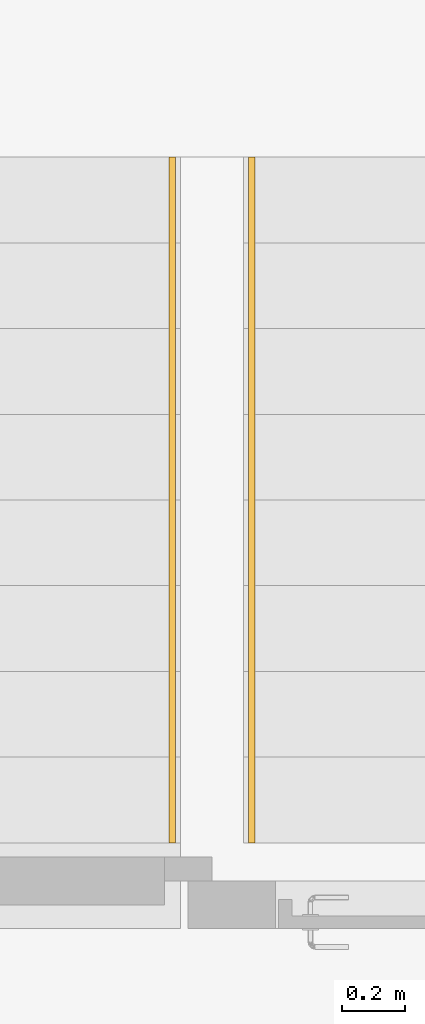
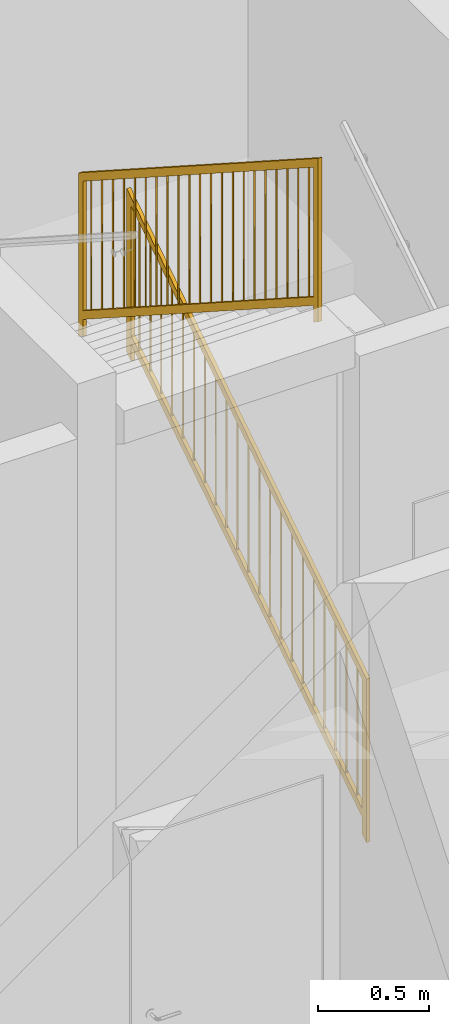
# One storey, part 40 of 58: 2 railings, 1 element without a shape of its own.
"""IFC2X3 building model written with IfcOpenShell, lengths in millimetres."""

from ifc_helpers import new_model, entity, si_unit, converted_unit, derived_unit, direction, frame, origin, place, context, subcontext, project, spatial, faceted_brep, material, type_object, element, aggregate, save


model = new_model("IFC2X3")

# Units and contexts
model_context = context("Model", 3, precision=0.01, world=origin(), true_north=direction((0.7716245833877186, 0.6360782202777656)))
body_context = subcontext(model_context, "Body", "Model", "MODEL_VIEW")
ifc_project = project(units=[si_unit("LENGTHUNIT", "METRE", prefix="MILLI"), si_unit("AREAUNIT", "SQUARE_METRE"), converted_unit("PLANEANGLEUNIT", "DEGREE", entity("IfcPlaneAngleMeasure", 0.017453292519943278), si_unit("PLANEANGLEUNIT", "RADIAN"), dimensions=[0, 0, 0, 0, 0, 0, 0]), derived_unit("THERMALTRANSMITTANCEUNIT", [(si_unit("MASSUNIT", "GRAM", prefix="KILO"), 1), (si_unit("THERMODYNAMICTEMPERATUREUNIT", "KELVIN"), -1), (si_unit("TIMEUNIT", "SECOND"), -3)])], contexts=[model_context])

# Site, building, storey
site_placement = place(None, origin())
site = spatial("IfcSite", under=ifc_project, at=site_placement, Name="Default", CompositionType="ELEMENT")
building_placement = place(site_placement, origin())
building = spatial("IfcBuilding", under=site, at=building_placement, CompositionType="ELEMENT")
storey_placement = place(building_placement, frame((0.0, 0.0, 31140.0)))
storey = spatial("IfcBuildingStorey", under=building, at=storey_placement, Name="PLAN U1", CompositionType="ELEMENT", Elevation=31140.000000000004)

# Stair, railings
type_product = type_object("IfcTypeProduct", Name="Cast-In-Place Stair:Cast-In-Place Stair")
stair_placement = place(storey_placement, origin())
stair = element("IfcStair", 1, at=stair_placement, inside=storey, type_object=type_product, Name="Cast-In-Place Stair:Stair", ObjectType="Cast-In-Place Stair:Cast-In-Place Stair", ShapeType="HALF_TURN_STAIR")
ifc_material = material(Name="<Unnamed>")
railing_type = type_object("IfcRailingType", Name="Railing:280 Rekkverk - Loddrett - Runde profiler - H=900mm", PredefinedType="NOTDEFINED")
railing_1_placement = place(stair_placement, frame((269182.224446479, 59435.25555007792, 1656.8421052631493)))
railing_1 = element("IfcRailing", 2, at=railing_1_placement, type_object=railing_type, material=ifc_material, Name="Railing:280 Rekkverk - Loddrett - Runde profiler - H=900mm", ObjectType="Railing:280 Rekkverk - Loddrett - Runde profiler - H=900mm", PredefinedType="NOTDEFINED", context=body_context, shape_type="Brep", body=[
    faceted_brep([(15.300000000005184, 98.18181818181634, 2186.31578947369), (11.41260466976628, 93.30717862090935, 2189.451522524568), (15.300000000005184, 98.18181818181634, 1466.3157894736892), (9.187395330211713, 93.30717862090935, 1469.4515225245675), (5.2999999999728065, 98.18181818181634, 2186.31578947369), (5.2999999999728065, 98.18181818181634, 1466.3157894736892), (9.187395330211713, 103.05645774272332, 2183.180056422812), (11.41260466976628, 103.05645774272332, 1463.1800564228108)], [[[0, 1, 2]], [[3, 2, 1]], [[4, 5, 3]], [[1, 4, 3]], [[6, 5, 4]], [[7, 5, 6]], [[0, 2, 7]], [[6, 0, 7]], [[6, 4, 1, 0]], [[3, 5, 7, 2]]]),
    faceted_brep([(15.300000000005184, 196.36363636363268, 2123.157894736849), (11.41260466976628, 191.4889968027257, 2126.2936277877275), (15.300000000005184, 196.36363636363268, 1403.1578947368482), (9.187395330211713, 191.4889968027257, 1406.2936277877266), (5.2999999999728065, 196.36363636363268, 2123.157894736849), (5.2999999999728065, 196.36363636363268, 1403.1578947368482), (9.187395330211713, 201.23827592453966, 2120.022161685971), (11.41260466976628, 201.23827592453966, 1400.0221616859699)], [[[0, 1, 2]], [[3, 2, 1]], [[4, 5, 3]], [[1, 4, 3]], [[6, 5, 4]], [[7, 5, 6]], [[0, 2, 7]], [[6, 0, 7]], [[6, 4, 1, 0]], [[3, 5, 7, 2]]]),
    faceted_brep([(15.300000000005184, 294.5454545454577, 2060.0), (11.41260466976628, 289.6708149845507, 2063.135733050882), (15.300000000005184, 294.5454545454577, 1340.0), (9.187395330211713, 289.6708149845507, 1343.1357330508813), (5.2999999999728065, 294.5454545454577, 2060.0), (5.2999999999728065, 294.5454545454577, 1340.0), (9.187395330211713, 299.4200941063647, 2056.8642669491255), (11.41260466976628, 299.4200941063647, 1336.8642669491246)], [[[0, 1, 2]], [[3, 2, 1]], [[4, 5, 3]], [[1, 4, 3]], [[6, 5, 4]], [[7, 5, 6]], [[0, 2, 7]], [[6, 0, 7]], [[6, 4, 1, 0]], [[3, 5, 7, 2]]]),
    faceted_brep([(15.300000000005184, 392.727272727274, 1996.842105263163), (11.41260466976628, 387.852633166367, 1999.9778383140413), (15.300000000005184, 392.727272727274, 1276.842105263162), (9.187395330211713, 387.852633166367, 1279.9778383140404), (5.2999999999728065, 392.727272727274, 1996.842105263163), (5.2999999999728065, 392.727272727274, 1276.842105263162), (9.187395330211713, 397.601912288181, 1993.7063722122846), (11.41260466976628, 397.601912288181, 1273.7063722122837)], [[[0, 1, 2]], [[3, 2, 1]], [[4, 5, 3]], [[1, 4, 3]], [[6, 5, 4]], [[7, 5, 6]], [[0, 2, 7]], [[6, 0, 7]], [[6, 4, 1, 0]], [[3, 5, 7, 2]]]),
    faceted_brep([(15.300000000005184, 490.90909090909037, 1933.684210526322), (11.41260466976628, 486.0344513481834, 1936.8199435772), (15.300000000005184, 490.90909090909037, 1213.684210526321), (9.187395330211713, 486.0344513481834, 1216.8199435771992), (5.2999999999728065, 490.90909090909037, 1933.684210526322), (5.2999999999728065, 490.90909090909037, 1213.684210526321), (9.187395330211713, 495.78373046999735, 1930.5484774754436), (11.41260466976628, 495.78373046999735, 1210.5484774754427)], [[[0, 1, 2]], [[3, 2, 1]], [[4, 5, 3]], [[1, 4, 3]], [[6, 5, 4]], [[7, 5, 6]], [[0, 2, 7]], [[6, 0, 7]], [[6, 4, 1, 0]], [[3, 5, 7, 2]]]),
    faceted_brep([(15.300000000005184, 589.0909090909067, 1870.5263157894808), (11.41260466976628, 584.2162695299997, 1873.6620488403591), (15.300000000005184, 589.0909090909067, 1150.52631578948), (9.187395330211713, 584.2162695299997, 1153.6620488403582), (5.2999999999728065, 589.0909090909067, 1870.5263157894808), (5.2999999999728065, 589.0909090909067, 1150.52631578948), (9.187395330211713, 593.9655486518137, 1867.3905827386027), (11.41260466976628, 593.9655486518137, 1147.3905827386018)], [[[0, 1, 2]], [[3, 2, 1]], [[4, 5, 3]], [[1, 4, 3]], [[6, 5, 4]], [[7, 5, 6]], [[0, 2, 7]], [[6, 0, 7]], [[6, 4, 1, 0]], [[3, 5, 7, 2]]]),
    faceted_brep([(15.300000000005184, 687.2727272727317, 1807.3684210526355), (11.41260466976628, 682.3980877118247, 1810.5041541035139), (15.300000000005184, 687.2727272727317, 1087.3684210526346), (9.187395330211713, 682.3980877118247, 1090.504154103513), (5.2999999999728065, 687.2727272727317, 1807.3684210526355), (5.2999999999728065, 687.2727272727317, 1087.3684210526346), (9.187395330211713, 692.1473668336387, 1804.2326880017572), (11.41260466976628, 692.1473668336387, 1084.2326880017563)], [[[0, 1, 2]], [[3, 2, 1]], [[4, 5, 3]], [[1, 4, 3]], [[6, 5, 4]], [[7, 5, 6]], [[0, 2, 7]], [[6, 0, 7]], [[6, 4, 1, 0]], [[3, 5, 7, 2]]]),
    faceted_brep([(15.300000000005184, 785.454545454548, 1744.2105263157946), (11.41260466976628, 780.579905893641, 1747.346259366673), (15.300000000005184, 785.454545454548, 1024.2105263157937), (9.187395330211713, 780.579905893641, 1027.346259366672), (5.2999999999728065, 785.454545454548, 1744.2105263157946), (5.2999999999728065, 785.454545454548, 1024.2105263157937), (9.187395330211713, 790.329185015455, 1741.0747932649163), (11.41260466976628, 790.329185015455, 1021.0747932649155)], [[[0, 1, 2]], [[3, 2, 1]], [[4, 5, 3]], [[1, 4, 3]], [[6, 5, 4]], [[7, 5, 6]], [[0, 2, 7]], [[6, 0, 7]], [[6, 4, 1, 0]], [[3, 5, 7, 2]]]),
    faceted_brep([(15.300000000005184, 883.6363636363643, 1681.0526315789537), (11.41260466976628, 878.7617240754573, 1684.188364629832), (15.300000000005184, 883.6363636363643, 961.0526315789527), (9.187395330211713, 878.7617240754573, 964.1883646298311), (5.2999999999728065, 883.6363636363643, 1681.0526315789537), (5.2999999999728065, 883.6363636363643, 961.0526315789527), (9.187395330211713, 888.5110031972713, 1677.9168985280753), (11.41260466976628, 888.5110031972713, 957.9168985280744)], [[[0, 1, 2]], [[3, 2, 1]], [[4, 5, 3]], [[1, 4, 3]], [[6, 5, 4]], [[7, 5, 6]], [[0, 2, 7]], [[6, 0, 7]], [[6, 4, 1, 0]], [[3, 5, 7, 2]]]),
    faceted_brep([(15.300000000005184, 981.8181818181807, 1617.8947368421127), (11.41260466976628, 976.9435422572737, 1621.030469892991), (15.300000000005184, 981.8181818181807, 897.8947368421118), (9.187395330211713, 976.9435422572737, 901.0304698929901), (5.2999999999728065, 981.8181818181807, 1617.8947368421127), (5.2999999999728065, 981.8181818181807, 897.8947368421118), (9.187395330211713, 986.6928213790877, 1614.7590037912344), (11.41260466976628, 986.6928213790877, 894.7590037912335)], [[[0, 1, 2]], [[3, 2, 1]], [[4, 5, 3]], [[1, 4, 3]], [[6, 5, 4]], [[7, 5, 6]], [[0, 2, 7]], [[6, 0, 7]], [[6, 4, 1, 0]], [[3, 5, 7, 2]]]),
    faceted_brep([(15.300000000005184, 1080.0, 1554.7368421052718), (11.41260466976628, 1075.12536043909, 1557.87257515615), (15.300000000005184, 1080.0, 834.7368421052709), (9.187395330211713, 1075.12536043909, 837.8725751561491), (5.2999999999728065, 1080.0, 1554.7368421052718), (5.2999999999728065, 1080.0, 834.7368421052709), (9.187395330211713, 1084.874639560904, 1551.6011090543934), (11.41260466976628, 1084.874639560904, 831.6011090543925)], [[[0, 1, 2]], [[3, 2, 1]], [[4, 5, 3]], [[1, 4, 3]], [[6, 5, 4]], [[7, 5, 6]], [[0, 2, 7]], [[6, 0, 7]], [[6, 4, 1, 0]], [[3, 5, 7, 2]]]),
    faceted_brep([(15.300000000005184, 1178.181818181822, 1491.5789473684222), (11.41260466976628, 1173.307178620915, 1494.7146804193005), (15.300000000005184, 1178.181818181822, 771.5789473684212), (9.187395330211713, 1173.307178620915, 774.7146804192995), (5.2999999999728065, 1178.181818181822, 1491.5789473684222), (5.2999999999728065, 1178.181818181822, 771.5789473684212), (9.187395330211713, 1183.056457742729, 1488.4432143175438), (11.41260466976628, 1183.056457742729, 768.4432143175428)], [[[0, 1, 2]], [[3, 2, 1]], [[4, 5, 3]], [[1, 4, 3]], [[6, 5, 4]], [[7, 5, 6]], [[0, 2, 7]], [[6, 0, 7]], [[6, 4, 1, 0]], [[3, 5, 7, 2]]]),
    faceted_brep([(15.300000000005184, 1276.3636363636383, 1428.4210526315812), (11.41260466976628, 1271.4889968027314, 1431.5567856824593), (15.300000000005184, 1276.3636363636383, 708.4210526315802), (9.187395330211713, 1271.4889968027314, 711.5567856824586), (5.2999999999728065, 1276.3636363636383, 1428.4210526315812), (5.2999999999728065, 1276.3636363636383, 708.4210526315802), (9.187395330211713, 1281.2382759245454, 1425.285319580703), (11.41260466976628, 1281.2382759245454, 705.2853195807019)], [[[0, 1, 2]], [[3, 2, 1]], [[4, 5, 3]], [[1, 4, 3]], [[6, 5, 4]], [[7, 5, 6]], [[0, 2, 7]], [[6, 0, 7]], [[6, 4, 1, 0]], [[3, 5, 7, 2]]]),
    faceted_brep([(15.300000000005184, 1374.5454545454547, 1365.26315789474), (11.41260466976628, 1369.6708149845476, 1368.3988909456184), (15.300000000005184, 1374.5454545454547, 645.2631578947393), (9.187395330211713, 1369.6708149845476, 648.3988909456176), (5.2999999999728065, 1374.5454545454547, 1365.26315789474), (5.2999999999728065, 1374.5454545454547, 645.2631578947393), (9.187395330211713, 1379.4200941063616, 1362.127424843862), (11.41260466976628, 1379.4200941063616, 642.1274248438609)], [[[0, 1, 2]], [[3, 2, 1]], [[4, 5, 3]], [[1, 4, 3]], [[6, 5, 4]], [[7, 5, 6]], [[0, 2, 7]], [[6, 0, 7]], [[6, 4, 1, 0]], [[3, 5, 7, 2]]]),
    faceted_brep([(15.300000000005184, 1472.7272727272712, 1302.1052631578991), (11.41260466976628, 1467.852633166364, 1305.2409962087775), (15.300000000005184, 1472.7272727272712, 582.1052631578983), (9.187395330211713, 1467.852633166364, 585.2409962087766), (5.2999999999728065, 1472.7272727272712, 1302.1052631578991), (5.2999999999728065, 1472.7272727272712, 582.1052631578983), (9.187395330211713, 1477.601912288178, 1298.9695301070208), (11.41260466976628, 1477.601912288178, 578.96953010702)], [[[0, 1, 2]], [[3, 2, 1]], [[4, 5, 3]], [[1, 4, 3]], [[6, 5, 4]], [[7, 5, 6]], [[0, 2, 7]], [[6, 0, 7]], [[6, 4, 1, 0]], [[3, 5, 7, 2]]]),
    faceted_brep([(15.300000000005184, 1570.909090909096, 1238.9473684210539), (11.41260466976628, 1566.0344513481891, 1242.0831014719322), (15.300000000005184, 1570.909090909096, 518.9473684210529), (9.187395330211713, 1566.0344513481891, 522.0831014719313), (5.2999999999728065, 1570.909090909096, 1238.9473684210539), (5.2999999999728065, 1570.909090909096, 518.9473684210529), (9.187395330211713, 1575.783730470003, 1235.8116353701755), (11.41260466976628, 1575.783730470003, 515.8116353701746)], [[[0, 1, 2]], [[3, 2, 1]], [[4, 5, 3]], [[1, 4, 3]], [[6, 5, 4]], [[7, 5, 6]], [[0, 2, 7]], [[6, 0, 7]], [[6, 4, 1, 0]], [[3, 5, 7, 2]]]),
    faceted_brep([(15.300000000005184, 1669.0909090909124, 1175.789473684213), (11.41260466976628, 1664.2162695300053, 1178.9252067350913), (15.300000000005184, 1669.0909090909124, 455.789473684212), (9.187395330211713, 1664.2162695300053, 458.92520673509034), (5.2999999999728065, 1669.0909090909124, 1175.789473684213), (5.2999999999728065, 1669.0909090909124, 455.789473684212), (9.187395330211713, 1673.9655486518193, 1172.6537406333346), (11.41260466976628, 1673.9655486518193, 452.65374063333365)], [[[0, 1, 2]], [[3, 2, 1]], [[4, 5, 3]], [[1, 4, 3]], [[6, 5, 4]], [[7, 5, 6]], [[0, 2, 7]], [[6, 0, 7]], [[6, 4, 1, 0]], [[3, 5, 7, 2]]]),
    faceted_brep([(15.300000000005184, 1767.2727272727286, 1112.631578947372), (11.41260466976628, 1762.3980877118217, 1115.7673119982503), (15.300000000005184, 1767.2727272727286, 392.63157894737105), (9.187395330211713, 1762.3980877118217, 395.76731199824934), (5.2999999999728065, 1767.2727272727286, 1112.631578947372), (5.2999999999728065, 1767.2727272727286, 392.63157894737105), (9.187395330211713, 1772.1473668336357, 1109.4958458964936), (11.41260466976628, 1772.1473668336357, 389.4958458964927)], [[[0, 1, 2]], [[3, 2, 1]], [[4, 5, 3]], [[1, 4, 3]], [[6, 5, 4]], [[7, 5, 6]], [[0, 2, 7]], [[6, 0, 7]], [[6, 4, 1, 0]], [[3, 5, 7, 2]]]),
    faceted_brep([(15.300000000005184, 1865.454545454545, 1049.473684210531), (11.41260466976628, 1860.5799058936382, 1052.6094172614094), (15.300000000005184, 1865.454545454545, 329.47368421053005), (9.187395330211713, 1860.5799058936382, 332.6094172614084), (5.2999999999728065, 1865.454545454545, 1049.473684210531), (5.2999999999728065, 1865.454545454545, 329.47368421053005), (9.187395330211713, 1870.3291850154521, 1046.3379511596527), (11.41260466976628, 1870.3291850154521, 326.33795115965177)], [[[0, 1, 2]], [[3, 2, 1]], [[4, 5, 3]], [[1, 4, 3]], [[6, 5, 4]], [[7, 5, 6]], [[0, 2, 7]], [[6, 0, 7]], [[6, 4, 1, 0]], [[3, 5, 7, 2]]]),
    faceted_brep([(15.300000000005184, 1963.63636363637, 986.3157894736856), (11.41260466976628, 1958.761724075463, 989.451522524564), (15.300000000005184, 1963.63636363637, 266.3157894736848), (9.187395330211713, 1958.761724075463, 269.4515225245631), (5.2999999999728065, 1963.63636363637, 986.3157894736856), (5.2999999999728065, 1963.63636363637, 266.3157894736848), (9.187395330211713, 1968.511003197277, 983.1800564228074), (11.41260466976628, 1968.511003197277, 263.18005642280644)], [[[0, 1, 2]], [[3, 2, 1]], [[4, 5, 3]], [[1, 4, 3]], [[6, 5, 4]], [[7, 5, 6]], [[0, 2, 7]], [[6, 0, 7]], [[6, 4, 1, 0]], [[3, 5, 7, 2]]]),
    faceted_brep([(15.300000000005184, 2061.8181818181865, 923.1578947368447), (11.41260466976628, 2056.943542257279, 926.293627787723), (15.300000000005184, 2061.8181818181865, 203.1578947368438), (9.187395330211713, 2056.943542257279, 206.2936277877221), (5.2999999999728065, 2061.8181818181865, 923.1578947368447), (5.2999999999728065, 2061.8181818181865, 203.1578947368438), (9.187395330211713, 2066.6928213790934, 920.0221616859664), (11.41260466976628, 2066.6928213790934, 200.02216168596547)], [[[0, 1, 2]], [[3, 2, 1]], [[4, 5, 3]], [[1, 4, 3]], [[6, 5, 4]], [[7, 5, 6]], [[0, 2, 7]], [[6, 0, 7]], [[6, 4, 1, 0]], [[3, 5, 7, 2]]]),
    faceted_brep([(0.0, 0.0, 1389.4736842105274), (0.0, 0.0, 2249.4736842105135), (0.0, 40.0, 2223.74269005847), (0.0, 40.0, 1363.7426900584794), (20.0, 0.0, 1389.4736842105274), (20.0, 40.0, 1363.7426900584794), (20.0, 40.0, 2223.74269005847), (20.0, 0.0, 2249.4736842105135)], [[[0, 1, 2, 3]], [[4, 5, 6, 7]], [[3, 5, 4, 0]], [[2, 6, 5, 3]], [[1, 7, 6, 2]], [[0, 4, 7, 1]]]),
    faceted_brep([(0.0, 2120.0, 25.730994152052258), (0.0, 2120.0, 885.7309941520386), (0.0, 2160.0, 860.0), (0.0, 2160.0, 0.0), (20.0, 2120.0, 25.730994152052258), (20.0, 2160.0, 0.0), (20.0, 2160.0, 860.0), (20.0, 2120.0, 885.7309941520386)], [[[0, 1, 2, 3]], [[4, 5, 6, 7]], [[3, 5, 4, 0]], [[2, 6, 5, 3]], [[1, 7, 6, 2]], [[0, 4, 7, 1]]]),
    faceted_brep([(20.014143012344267, 2160.0, 852.4386284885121), (0.0141430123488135, 2160.0, 852.4386284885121), (0.0141430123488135, 2160.0, 900.0), (20.014143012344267, 2160.0, 900.0), (20.014143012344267, 0.0, 2241.9123126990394), (20.014143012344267, 0.0, 2289.4736842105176), (0.0141430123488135, 0.0, 2289.4736842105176), (0.0141430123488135, 0.0, 2241.9123126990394)], [[[0, 1, 2, 3]], [[4, 5, 6, 7]], [[1, 0, 4, 7]], [[2, 1, 7, 6]], [[3, 2, 6, 5]], [[0, 3, 5, 4]]]),
    faceted_brep([(20.014143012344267, 2160.0, 92.4386284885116), (0.0141430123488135, 2160.0, 92.4386284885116), (0.0141430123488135, 2160.0, 140.0), (20.014143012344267, 2160.0, 140.0), (20.014143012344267, 0.0, 1481.912312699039), (20.014143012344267, 0.0, 1529.4736842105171), (0.0141430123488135, 0.0, 1529.4736842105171), (0.0141430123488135, 0.0, 1481.912312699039)], [[[0, 1, 2, 3]], [[4, 5, 6, 7]], [[1, 0, 4, 7]], [[2, 1, 7, 6]], [[3, 2, 6, 5]], [[0, 3, 5, 4]]]),
])
railing_2_placement = place(stair_placement, frame((269433.6103034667, 59435.25555007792, 93.68421052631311)))
railing_2 = element("IfcRailing", 3, at=railing_2_placement, type_object=railing_type, material=ifc_material, Name="Railing:280 Rekkverk - Loddrett - Runde profiler - H=900mm", ObjectType="Railing:280 Rekkverk - Loddrett - Runde profiler - H=900mm", PredefinedType="NOTDEFINED", context=body_context, shape_type="Brep", body=[
    faceted_brep([(4.714143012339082, 98.18181818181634, 203.15789473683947), (8.601538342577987, 93.30717862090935, 920.022161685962), (4.714143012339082, 98.18181818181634, 923.1578947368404), (10.826747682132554, 93.30717862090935, 200.02216168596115), (14.71414301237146, 98.18181818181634, 203.15789473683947), (14.71414301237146, 98.18181818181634, 923.1578947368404), (10.826747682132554, 103.05645774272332, 926.2936277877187), (8.601538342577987, 103.05645774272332, 206.29362778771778)], [[[0, 1, 2]], [[1, 0, 3]], [[3, 4, 5]], [[3, 5, 1]], [[5, 4, 6]], [[6, 4, 7]], [[7, 0, 2]], [[7, 2, 6]], [[2, 1, 5, 6]], [[0, 7, 4, 3]]]),
    faceted_brep([(4.714143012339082, 196.36363636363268, 266.3157894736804), (8.601538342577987, 191.4889968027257, 983.180056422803), (4.714143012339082, 196.36363636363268, 986.3157894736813), (10.826747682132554, 191.4889968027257, 263.1800564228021), (14.71414301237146, 196.36363636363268, 266.3157894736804), (14.71414301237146, 196.36363636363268, 986.3157894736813), (10.826747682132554, 201.23827592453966, 989.4515225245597), (8.601538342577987, 201.23827592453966, 269.45152252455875)], [[[0, 1, 2]], [[1, 0, 3]], [[3, 4, 5]], [[3, 5, 1]], [[5, 4, 6]], [[6, 4, 7]], [[7, 0, 2]], [[7, 2, 6]], [[2, 1, 5, 6]], [[0, 7, 4, 3]]]),
    faceted_brep([(4.714143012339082, 294.5454545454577, 329.47368421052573), (8.601538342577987, 289.6708149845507, 1046.3379511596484), (4.714143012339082, 294.5454545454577, 1049.4736842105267), (10.826747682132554, 289.6708149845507, 326.3379511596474), (14.71414301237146, 294.5454545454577, 329.47368421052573), (14.71414301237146, 294.5454545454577, 1049.4736842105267), (10.826747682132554, 299.4200941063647, 1052.609417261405), (8.601538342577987, 299.4200941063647, 332.6094172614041)], [[[0, 1, 2]], [[1, 0, 3]], [[3, 4, 5]], [[3, 5, 1]], [[5, 4, 6]], [[6, 4, 7]], [[7, 0, 2]], [[7, 2, 6]], [[2, 1, 5, 6]], [[0, 7, 4, 3]]]),
    faceted_brep([(4.714143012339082, 392.727272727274, 392.6315789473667), (8.601538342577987, 387.852633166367, 1109.4958458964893), (4.714143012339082, 392.727272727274, 1112.6315789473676), (10.826747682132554, 387.852633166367, 389.4958458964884), (14.71414301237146, 392.727272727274, 392.6315789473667), (14.71414301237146, 392.727272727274, 1112.6315789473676), (10.826747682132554, 397.601912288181, 1115.767311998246), (8.601538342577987, 397.601912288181, 395.767311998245)], [[[0, 1, 2]], [[1, 0, 3]], [[3, 4, 5]], [[3, 5, 1]], [[5, 4, 6]], [[6, 4, 7]], [[7, 0, 2]], [[7, 2, 6]], [[2, 1, 5, 6]], [[0, 7, 4, 3]]]),
    faceted_brep([(4.714143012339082, 490.90909090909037, 455.7894736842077), (8.601538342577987, 486.0344513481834, 1172.6537406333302), (4.714143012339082, 490.90909090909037, 1175.7894736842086), (10.826747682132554, 486.0344513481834, 452.65374063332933), (14.71414301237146, 490.90909090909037, 455.7894736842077), (14.71414301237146, 490.90909090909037, 1175.7894736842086), (10.826747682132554, 495.78373046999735, 1178.925206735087), (8.601538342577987, 495.78373046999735, 458.925206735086)], [[[0, 1, 2]], [[1, 0, 3]], [[3, 4, 5]], [[3, 5, 1]], [[5, 4, 6]], [[6, 4, 7]], [[7, 0, 2]], [[7, 2, 6]], [[2, 1, 5, 6]], [[0, 7, 4, 3]]]),
    faceted_brep([(4.714143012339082, 589.0909090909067, 518.9473684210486), (8.601538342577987, 584.2162695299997, 1235.8116353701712), (4.714143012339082, 589.0909090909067, 1238.9473684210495), (10.826747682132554, 584.2162695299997, 515.8116353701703), (14.71414301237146, 589.0909090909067, 518.9473684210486), (14.71414301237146, 589.0909090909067, 1238.9473684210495), (10.826747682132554, 593.9655486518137, 1242.0831014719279), (8.601538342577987, 593.9655486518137, 522.083101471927)], [[[0, 1, 2]], [[1, 0, 3]], [[3, 4, 5]], [[3, 5, 1]], [[5, 4, 6]], [[6, 4, 7]], [[7, 0, 2]], [[7, 2, 6]], [[2, 1, 5, 6]], [[0, 7, 4, 3]]]),
    faceted_brep([(4.714143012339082, 687.2727272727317, 582.1052631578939), (8.601538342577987, 682.3980877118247, 1298.9695301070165), (4.714143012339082, 687.2727272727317, 1302.1052631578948), (10.826747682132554, 682.3980877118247, 578.9695301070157), (14.71414301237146, 687.2727272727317, 582.1052631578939), (14.71414301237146, 687.2727272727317, 1302.1052631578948), (10.826747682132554, 692.1473668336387, 1305.2409962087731), (8.601538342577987, 692.1473668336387, 585.2409962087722)], [[[0, 1, 2]], [[1, 0, 3]], [[3, 4, 5]], [[3, 5, 1]], [[5, 4, 6]], [[6, 4, 7]], [[7, 0, 2]], [[7, 2, 6]], [[2, 1, 5, 6]], [[0, 7, 4, 3]]]),
    faceted_brep([(4.714143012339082, 785.454545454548, 645.263157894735), (8.601538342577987, 780.579905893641, 1362.1274248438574), (4.714143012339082, 785.454545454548, 1365.2631578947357), (10.826747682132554, 780.579905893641, 642.1274248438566), (14.71414301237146, 785.454545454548, 645.263157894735), (14.71414301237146, 785.454545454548, 1365.2631578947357), (10.826747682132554, 790.329185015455, 1368.398890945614), (8.601538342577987, 790.329185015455, 648.3988909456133)], [[[0, 1, 2]], [[1, 0, 3]], [[3, 4, 5]], [[3, 5, 1]], [[5, 4, 6]], [[6, 4, 7]], [[7, 0, 2]], [[7, 2, 6]], [[2, 1, 5, 6]], [[0, 7, 4, 3]]]),
    faceted_brep([(4.714143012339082, 883.6363636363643, 708.4210526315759), (8.601538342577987, 878.7617240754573, 1425.2853195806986), (4.714143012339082, 883.6363636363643, 1428.4210526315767), (10.826747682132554, 878.7617240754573, 705.2853195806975), (14.71414301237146, 883.6363636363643, 708.4210526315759), (14.71414301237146, 883.6363636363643, 1428.4210526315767), (10.826747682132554, 888.5110031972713, 1431.556785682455), (8.601538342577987, 888.5110031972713, 711.5567856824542)], [[[0, 1, 2]], [[1, 0, 3]], [[3, 4, 5]], [[3, 5, 1]], [[5, 4, 6]], [[6, 4, 7]], [[7, 0, 2]], [[7, 2, 6]], [[2, 1, 5, 6]], [[0, 7, 4, 3]]]),
    faceted_brep([(4.714143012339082, 981.8181818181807, 771.5789473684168), (8.601538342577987, 976.9435422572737, 1488.4432143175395), (4.714143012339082, 981.8181818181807, 1491.5789473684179), (10.826747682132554, 976.9435422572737, 768.4432143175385), (14.71414301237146, 981.8181818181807, 771.5789473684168), (14.71414301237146, 981.8181818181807, 1491.5789473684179), (10.826747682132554, 986.6928213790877, 1494.714680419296), (8.601538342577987, 986.6928213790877, 774.7146804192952)], [[[0, 1, 2]], [[1, 0, 3]], [[3, 4, 5]], [[3, 5, 1]], [[5, 4, 6]], [[6, 4, 7]], [[7, 0, 2]], [[7, 2, 6]], [[2, 1, 5, 6]], [[0, 7, 4, 3]]]),
    faceted_brep([(4.714143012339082, 1080.0, 834.7368421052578), (8.601538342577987, 1075.12536043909, 1551.6011090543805), (4.714143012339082, 1080.0, 1554.7368421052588), (10.826747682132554, 1075.12536043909, 831.6011090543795), (14.71414301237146, 1080.0, 834.7368421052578), (14.71414301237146, 1080.0, 1554.7368421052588), (10.826747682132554, 1084.874639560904, 1557.8725751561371), (8.601538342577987, 1084.874639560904, 837.8725751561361)], [[[0, 1, 2]], [[1, 0, 3]], [[3, 4, 5]], [[3, 5, 1]], [[5, 4, 6]], [[6, 4, 7]], [[7, 0, 2]], [[7, 2, 6]], [[2, 1, 5, 6]], [[0, 7, 4, 3]]]),
    faceted_brep([(4.714143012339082, 1178.181818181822, 897.8947368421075), (8.601538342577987, 1173.307178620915, 1614.75900379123), (4.714143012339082, 1178.181818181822, 1617.8947368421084), (10.826747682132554, 1173.307178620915, 894.7590037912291), (14.71414301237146, 1178.181818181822, 897.8947368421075), (14.71414301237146, 1178.181818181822, 1617.8947368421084), (10.826747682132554, 1183.056457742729, 1621.0304698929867), (8.601538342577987, 1183.056457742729, 901.0304698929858)], [[[0, 1, 2]], [[1, 0, 3]], [[3, 4, 5]], [[3, 5, 1]], [[5, 4, 6]], [[6, 4, 7]], [[7, 0, 2]], [[7, 2, 6]], [[2, 1, 5, 6]], [[0, 7, 4, 3]]]),
    faceted_brep([(4.714143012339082, 1276.3636363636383, 961.0526315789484), (8.601538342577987, 1271.4889968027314, 1677.916898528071), (4.714143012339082, 1276.3636363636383, 1681.0526315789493), (10.826747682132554, 1271.4889968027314, 957.9168985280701), (14.71414301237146, 1276.3636363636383, 961.0526315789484), (14.71414301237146, 1276.3636363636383, 1681.0526315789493), (10.826747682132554, 1281.2382759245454, 1684.1883646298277), (8.601538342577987, 1281.2382759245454, 964.1883646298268)], [[[0, 1, 2]], [[1, 0, 3]], [[3, 4, 5]], [[3, 5, 1]], [[5, 4, 6]], [[6, 4, 7]], [[7, 0, 2]], [[7, 2, 6]], [[2, 1, 5, 6]], [[0, 7, 4, 3]]]),
    faceted_brep([(4.714143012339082, 1374.5454545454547, 1024.2105263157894), (8.601538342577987, 1369.6708149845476, 1741.074793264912), (4.714143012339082, 1374.5454545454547, 1744.2105263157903), (10.826747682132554, 1369.6708149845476, 1021.074793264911), (14.71414301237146, 1374.5454545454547, 1024.2105263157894), (14.71414301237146, 1374.5454545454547, 1744.2105263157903), (10.826747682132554, 1379.4200941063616, 1747.3462593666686), (8.601538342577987, 1379.4200941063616, 1027.3462593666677)], [[[0, 1, 2]], [[1, 0, 3]], [[3, 4, 5]], [[3, 5, 1]], [[5, 4, 6]], [[6, 4, 7]], [[7, 0, 2]], [[7, 2, 6]], [[2, 1, 5, 6]], [[0, 7, 4, 3]]]),
    faceted_brep([(4.714143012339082, 1472.7272727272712, 1087.3684210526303), (8.601538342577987, 1467.852633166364, 1804.2326880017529), (4.714143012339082, 1472.7272727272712, 1807.3684210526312), (10.826747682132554, 1467.852633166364, 1084.232688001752), (14.71414301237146, 1472.7272727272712, 1087.3684210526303), (14.71414301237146, 1472.7272727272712, 1807.3684210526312), (10.826747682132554, 1477.601912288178, 1810.5041541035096), (8.601538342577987, 1477.601912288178, 1090.5041541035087)], [[[0, 1, 2]], [[1, 0, 3]], [[3, 4, 5]], [[3, 5, 1]], [[5, 4, 6]], [[6, 4, 7]], [[7, 0, 2]], [[7, 2, 6]], [[2, 1, 5, 6]], [[0, 7, 4, 3]]]),
    faceted_brep([(4.714143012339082, 1570.909090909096, 1150.5263157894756), (8.601538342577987, 1566.0344513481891, 1867.3905827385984), (4.714143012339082, 1570.909090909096, 1870.5263157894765), (10.826747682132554, 1566.0344513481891, 1147.3905827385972), (14.71414301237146, 1570.909090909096, 1150.5263157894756), (14.71414301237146, 1570.909090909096, 1870.5263157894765), (10.826747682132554, 1575.783730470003, 1873.6620488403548), (8.601538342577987, 1575.783730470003, 1153.662048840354)], [[[0, 1, 2]], [[1, 0, 3]], [[3, 4, 5]], [[3, 5, 1]], [[5, 4, 6]], [[6, 4, 7]], [[7, 0, 2]], [[7, 2, 6]], [[2, 1, 5, 6]], [[0, 7, 4, 3]]]),
    faceted_brep([(4.714143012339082, 1669.0909090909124, 1213.6842105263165), (8.601538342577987, 1664.2162695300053, 1930.5484774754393), (4.714143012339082, 1669.0909090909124, 1933.6842105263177), (10.826747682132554, 1664.2162695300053, 1210.5484774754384), (14.71414301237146, 1669.0909090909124, 1213.6842105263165), (14.71414301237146, 1669.0909090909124, 1933.6842105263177), (10.826747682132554, 1673.9655486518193, 1936.8199435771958), (8.601538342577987, 1673.9655486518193, 1216.8199435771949)], [[[0, 1, 2]], [[1, 0, 3]], [[3, 4, 5]], [[3, 5, 1]], [[5, 4, 6]], [[6, 4, 7]], [[7, 0, 2]], [[7, 2, 6]], [[2, 1, 5, 6]], [[0, 7, 4, 3]]]),
    faceted_brep([(4.714143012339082, 1767.2727272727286, 1276.8421052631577), (8.601538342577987, 1762.3980877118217, 1993.7063722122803), (4.714143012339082, 1767.2727272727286, 1996.8421052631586), (10.826747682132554, 1762.3980877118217, 1273.7063722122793), (14.71414301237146, 1767.2727272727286, 1276.8421052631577), (14.71414301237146, 1767.2727272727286, 1996.8421052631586), (10.826747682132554, 1772.1473668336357, 1999.977838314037), (8.601538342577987, 1772.1473668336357, 1279.977838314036)], [[[0, 1, 2]], [[1, 0, 3]], [[3, 4, 5]], [[3, 5, 1]], [[5, 4, 6]], [[6, 4, 7]], [[7, 0, 2]], [[7, 2, 6]], [[2, 1, 5, 6]], [[0, 7, 4, 3]]]),
    faceted_brep([(4.714143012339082, 1865.454545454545, 1340.0), (8.601538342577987, 1860.5799058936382, 2056.864266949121), (4.714143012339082, 1865.454545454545, 2060.0), (10.826747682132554, 1860.5799058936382, 1336.8642669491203), (14.71414301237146, 1865.454545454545, 1340.0), (14.71414301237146, 1865.454545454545, 2060.0), (10.826747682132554, 1870.3291850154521, 2063.1357330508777), (8.601538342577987, 1870.3291850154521, 1343.135733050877)], [[[0, 1, 2]], [[1, 0, 3]], [[3, 4, 5]], [[3, 5, 1]], [[5, 4, 6]], [[6, 4, 7]], [[7, 0, 2]], [[7, 2, 6]], [[2, 1, 5, 6]], [[0, 7, 4, 3]]]),
    faceted_brep([(4.714143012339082, 1963.63636363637, 1403.157894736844), (8.601538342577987, 1958.761724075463, 2120.0221616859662), (4.714143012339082, 1963.63636363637, 2123.157894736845), (10.826747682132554, 1958.761724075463, 1400.0221616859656), (14.71414301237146, 1963.63636363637, 1403.157894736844), (14.71414301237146, 1963.63636363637, 2123.157894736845), (10.826747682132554, 1968.511003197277, 2126.293627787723), (8.601538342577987, 1968.511003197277, 1406.2936277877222)], [[[0, 1, 2]], [[1, 0, 3]], [[3, 4, 5]], [[3, 5, 1]], [[5, 4, 6]], [[6, 4, 7]], [[7, 0, 2]], [[7, 2, 6]], [[2, 1, 5, 6]], [[0, 7, 4, 3]]]),
    faceted_brep([(4.714143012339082, 2061.8181818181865, 1466.3157894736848), (8.601538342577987, 2056.943542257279, 2183.1800564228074), (4.714143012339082, 2061.8181818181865, 2186.315789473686), (10.826747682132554, 2056.943542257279, 1463.1800564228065), (14.71414301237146, 2061.8181818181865, 1466.3157894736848), (14.71414301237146, 2061.8181818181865, 2186.315789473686), (10.826747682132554, 2066.6928213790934, 2189.451522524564), (8.601538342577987, 2066.6928213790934, 1469.4515225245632)], [[[0, 1, 2]], [[1, 0, 3]], [[3, 4, 5]], [[3, 5, 1]], [[5, 4, 6]], [[6, 4, 7]], [[7, 0, 2]], [[7, 2, 6]], [[2, 1, 5, 6]], [[0, 7, 4, 3]]]),
    faceted_brep([(20.014143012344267, 0.0, 0.0), (20.014143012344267, 40.0, 25.730994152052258), (20.014143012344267, 40.0, 885.7309941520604), (20.014143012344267, 0.0, 860.0), (0.0141430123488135, 0.0, 0.0), (0.0141430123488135, 0.0, 860.0), (0.0141430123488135, 40.0, 885.7309941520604), (0.0141430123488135, 40.0, 25.730994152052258)], [[[0, 1, 2, 3]], [[4, 5, 6, 7]], [[1, 0, 4, 7]], [[2, 1, 7, 6]], [[3, 2, 6, 5]], [[0, 3, 5, 4]]]),
    faceted_brep([(20.014143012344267, 2120.0, 1363.7426900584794), (20.014143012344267, 2160.0, 1389.4736842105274), (20.014143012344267, 2160.0, 2249.4736842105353), (20.014143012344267, 2120.0, 2223.7426900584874), (0.0141430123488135, 2120.0, 1363.7426900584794), (0.0141430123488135, 2120.0, 2223.7426900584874), (0.0141430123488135, 2160.0, 2249.4736842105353), (0.0141430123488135, 2160.0, 1389.4736842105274)], [[[0, 1, 2, 3]], [[4, 5, 6, 7]], [[1, 0, 4, 7]], [[2, 1, 7, 6]], [[3, 2, 6, 5]], [[0, 3, 5, 4]]]),
    faceted_brep([(0.0, 2160.0, 2241.9123126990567), (0.0, 2160.0, 2289.473684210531), (20.0, 2160.0, 2289.473684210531), (20.0, 2160.0, 2241.9123126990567), (0.0, 0.0, 852.4386284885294), (20.0, 0.0, 852.4386284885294), (20.0, 0.0, 900.0), (0.0, 0.0, 900.0)], [[[0, 1, 2, 3]], [[4, 5, 6, 7]], [[0, 3, 5, 4]], [[3, 2, 6, 5]], [[2, 1, 7, 6]], [[1, 0, 4, 7]]]),
    faceted_brep([(0.0, 2160.0, 1481.9123126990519), (0.0, 2160.0, 1529.4736842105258), (20.0, 2160.0, 1529.4736842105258), (20.0, 2160.0, 1481.9123126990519), (0.0, 0.0, 92.4386284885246), (20.0, 0.0, 92.4386284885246), (20.0, 0.0, 140.0), (0.0, 0.0, 140.0)], [[[0, 1, 2, 3]], [[4, 5, 6, 7]], [[0, 3, 5, 4]], [[3, 2, 6, 5]], [[2, 1, 7, 6]], [[1, 0, 4, 7]]]),
])
aggregate(stair, [railing_1, railing_2])

save(model, "model.ifc")
